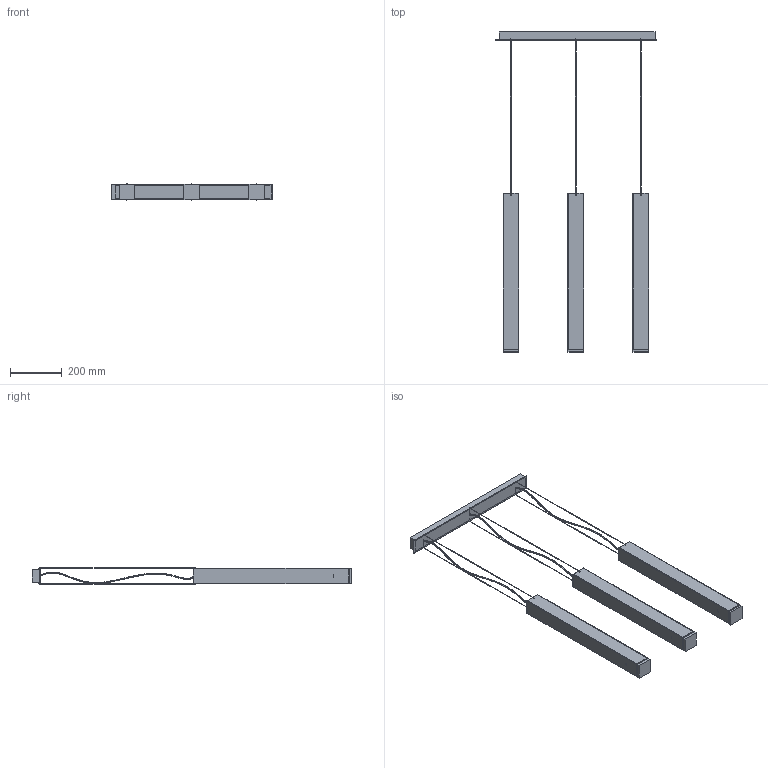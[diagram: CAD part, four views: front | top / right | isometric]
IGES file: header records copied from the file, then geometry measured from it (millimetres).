
Start section: SolidWorks IGES file using analytic representation for surfaces
Global section: file name: E:\3D lampy\Bryce\Bryce_6478,6480.IGS; native system: SolidWorks 2016; preprocessor: SolidWorks 2016; author: Asia; date: 160808.153735; units: millimetre
Bounding box: 616 x 1230.99 x 63.5 mm (x, y, z)
Surface area: 1053985.2 mm2 (no closed solid volume)
Topology: 0 solids, 0 shells, 254 faces, 3831 edges, 3831 vertices
Faces by surface type: bspline 143, revolution 111
